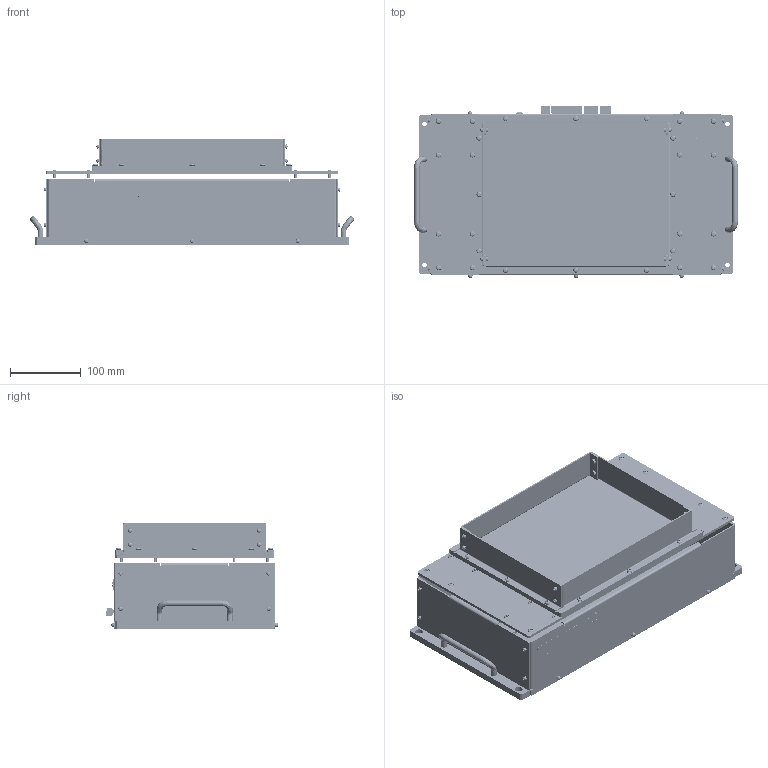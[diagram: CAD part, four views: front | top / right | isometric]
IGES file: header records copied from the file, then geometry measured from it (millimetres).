
Start section: SolidWorks IGES file using analytic representation for surfaces
Bounding box: 459.3 x 243.28 x 149 mm (x, y, z)
Surface area: 864778.5 mm2 (no closed solid volume)
Topology: 0 solids, 0 shells, 6409 faces, 80936 edges, 80928 vertices
Faces by surface type: bspline 4668, revolution 1741
